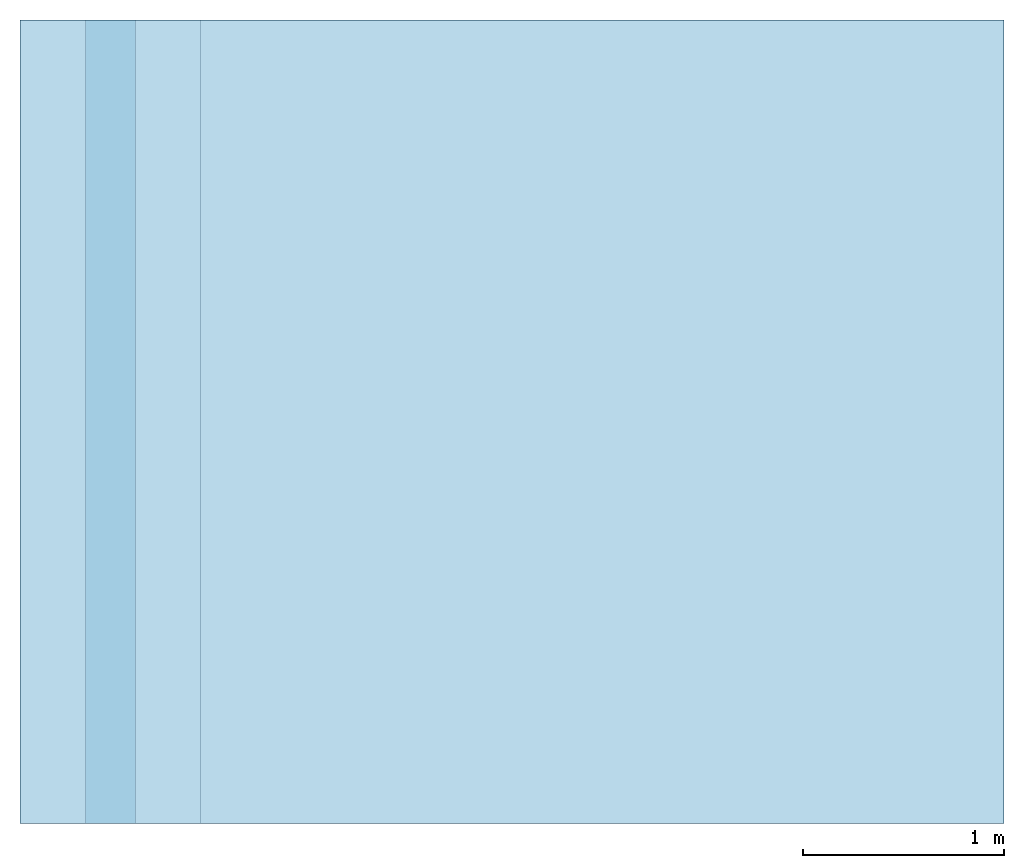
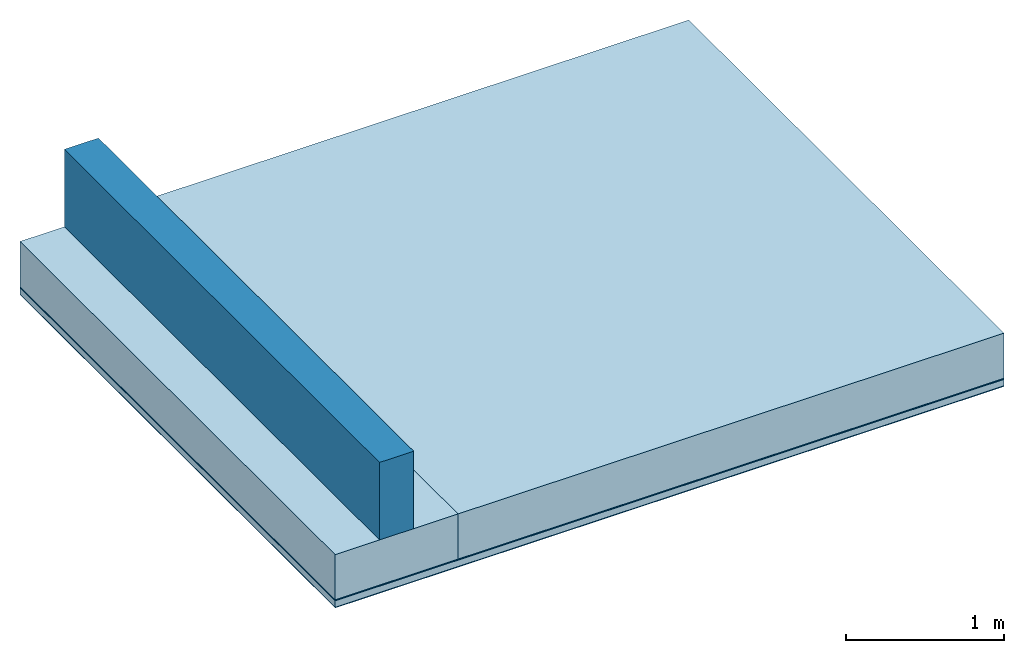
# One storey: 7 slabs, 1 footing, 1 wall.
"""IFC2X3 building model written with IfcOpenShell, lengths in millimetres."""

from ifc_helpers import new_model, entity, si_unit, converted_unit, derived_unit, direction, frame, frame_2d, origin, origin_2d_with_axis, place, context, subcontext, project, spatial, rectangle, extrude, material, layer, layer_set, layer_usage, type_object, element, save


model = new_model("IFC2X3")

# Units and contexts
model_context = context("Model", 3, precision=0.01, world=origin(), true_north=direction((6.12303176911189e-17, 1.0)))
body_context = subcontext(model_context, "Body", "Model", "MODEL_VIEW")
ifc_project = project(units=[si_unit("LENGTHUNIT", "METRE", prefix="MILLI"), si_unit("AREAUNIT", "SQUARE_METRE"), si_unit("VOLUMEUNIT", "CUBIC_METRE"), converted_unit("PLANEANGLEUNIT", "DEGREE", entity("IfcRatioMeasure", 0.0174532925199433), si_unit("PLANEANGLEUNIT", "RADIAN"), dimensions=[0, 0, 0, 0, 0, 0, 0]), si_unit("MASSUNIT", "GRAM", prefix="KILO"), derived_unit("MASSDENSITYUNIT", [(si_unit("MASSUNIT", "GRAM", prefix="KILO"), 1), (si_unit("LENGTHUNIT", "METRE"), -3)]), si_unit("TIMEUNIT", "SECOND"), si_unit("FREQUENCYUNIT", "HERTZ"), si_unit("THERMODYNAMICTEMPERATUREUNIT", "DEGREE_CELSIUS"), derived_unit("THERMALTRANSMITTANCEUNIT", [(si_unit("MASSUNIT", "GRAM", prefix="KILO"), 1), (si_unit("THERMODYNAMICTEMPERATUREUNIT", "KELVIN"), -1), (si_unit("TIMEUNIT", "SECOND"), -3)]), derived_unit("VOLUMETRICFLOWRATEUNIT", [(si_unit("LENGTHUNIT", "METRE"), 3), (si_unit("TIMEUNIT", "SECOND"), -1)]), si_unit("ELECTRICCURRENTUNIT", "AMPERE"), si_unit("ELECTRICVOLTAGEUNIT", "VOLT"), si_unit("POWERUNIT", "WATT"), si_unit("FORCEUNIT", "NEWTON", prefix="KILO"), si_unit("ILLUMINANCEUNIT", "LUX"), si_unit("LUMINOUSFLUXUNIT", "LUMEN"), si_unit("LUMINOUSINTENSITYUNIT", "CANDELA"), derived_unit("USERDEFINED", [(si_unit("MASSUNIT", "GRAM", prefix="KILO"), -1), (si_unit("LENGTHUNIT", "METRE"), -2), (si_unit("TIMEUNIT", "SECOND"), 3), (si_unit("LUMINOUSFLUXUNIT", "LUMEN"), 1)]), derived_unit("LINEARVELOCITYUNIT", [(si_unit("LENGTHUNIT", "METRE"), 1), (si_unit("TIMEUNIT", "SECOND"), -1)]), si_unit("PRESSUREUNIT", "PASCAL"), derived_unit("USERDEFINED", [(si_unit("LENGTHUNIT", "METRE"), -2), (si_unit("MASSUNIT", "GRAM", prefix="KILO"), 1), (si_unit("TIMEUNIT", "SECOND"), -2)])], contexts=[model_context])

# Site, building, storey
site_placement = place(None, origin())
site = spatial("IfcSite", under=ifc_project, at=site_placement, Name="Default", CompositionType="ELEMENT")
building_placement = place(site_placement, origin())
building = spatial("IfcBuilding", under=site, at=building_placement, CompositionType="ELEMENT")
storey_placement = place(building_placement, origin())
storey = spatial("IfcBuildingStorey", under=building, at=storey_placement, Name="Nivel 1", CompositionType="ELEMENT", Elevation=0.0)

# Footing
ifc_material_1 = material(Name="Placa")
footing_placement = place(storey_placement, origin())
element("IfcFooting", 1, at=footing_placement, inside=storey, material=ifc_material_1, Name="Cimentación de muro:ZapataCorrida", ObjectType="Cimentación de muro:ZapataCorrida", PredefinedType="STRIP_FOOTING", context=body_context, shape_type="SweptSolid", body=[
    extrude(rectangle(XDim=4000.0, YDim=900.0, at=frame_2d((1.13686837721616e-13, 5.40012479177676e-13), x_axis=(1.0, 0.0))), frame((-6604.95271651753, -1086.84289171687, -350.0), z_axis=(0.0, 0.0, 1.0), x_axis=(0.0, -1.0, 0.0)), (0.0, 0.0, 1.0), 350.0),
])

# Slabs
ifc_layer_1 = layer(ifc_material_1, 350.0)
ifc_layer_set_1 = layer_set([ifc_layer_1], Name="Suelo:Placa")
ifc_layer_usage_1 = layer_usage(ifc_layer_set_1, "AXIS3", "POSITIVE", 0.0)
slab_1_placement = place(storey_placement, origin())
element("IfcSlab", 2, at=slab_1_placement, inside=storey, material=ifc_layer_usage_1, Name="Suelo:Placa", ObjectType="Suelo:Placa", PredefinedType="FLOOR", context=body_context, shape_type="SweptSolid", body=[
    extrude(rectangle(XDim=4000.00000000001, YDim=4000.0, at=origin_2d_with_axis()), frame((-4154.95271651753, -1086.84289171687, 0.0), z_axis=(0.0, 0.0, -1.0), x_axis=(0.0, 1.0, 0.0)), (0.0, 0.0, 1.0), 350.0),
])
ifc_material_2 = material(Name="IM_Polipropileno_Geotextil_GeofimPP12515")
slab_2_placement = place(storey_placement, origin())
element("IfcSlab", 3, at=slab_2_placement, inside=storey, material=ifc_material_2, Name="Pieza", context=body_context, shape_type="SweptSolid", body=[
    extrude(rectangle(XDim=4900.0, YDim=4000.0, at=origin_2d_with_axis()), frame((-4604.95271651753, -1086.84289171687, -352.0), z_axis=(0.0, 0.0, 1.0), x_axis=(-1.0, 0.0, 0.0)), (0.0, 0.0, 1.0), 2.00000000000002),
])
ifc_material_3 = material(Name="IM_LaminaAsfaltica_Lamina_PolitaberPolPy30 (LBM 30-FP)")
slab_3_placement = place(storey_placement, origin())
element("IfcSlab", 4, at=slab_3_placement, inside=storey, material=ifc_material_3, Name="Pieza", context=body_context, shape_type="SweptSolid", body=[
    extrude(rectangle(XDim=4900.0, YDim=4000.0, at=origin_2d_with_axis()), frame((-4604.95271651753, -1086.84289171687, -354.0), z_axis=(0.0, 0.0, 1.0), x_axis=(-1.0, 0.0, 0.0)), (0.0, 0.0, 1.0), 1.99999999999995),
])
slab_4_placement = place(storey_placement, origin())
element("IfcSlab", 5, at=slab_4_placement, inside=storey, material=ifc_material_3, Name="Pieza", context=body_context, shape_type="SweptSolid", body=[
    extrude(rectangle(XDim=4900.0, YDim=4000.0, at=frame_2d((4.54747350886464e-13, 0.0), x_axis=(1.0, 0.0))), frame((-4604.95271651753, -1086.84289171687, -356.0), z_axis=(0.0, 0.0, 1.0), x_axis=(-1.0, 0.0, 0.0)), (0.0, 0.0, 1.0), 2.00000000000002),
])
ifc_material_4 = material(Name="IM_EmulsionBituminosa_Bote_Supermul")
slab_5_placement = place(storey_placement, origin())
element("IfcSlab", 6, at=slab_5_placement, inside=storey, material=ifc_material_4, Name="Pieza", context=body_context, shape_type="SweptSolid", body=[
    extrude(rectangle(XDim=4900.0, YDim=4000.0, at=origin_2d_with_axis()), frame((-4604.95271651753, -1086.84289171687, -358.0), z_axis=(0.0, 0.0, 1.0), x_axis=(-1.0, 0.0, 0.0)), (0.0, 0.0, 1.0), 2.00000000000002),
])
ifc_material_5 = material(Name="Hormigón de limpieza")
slab_6_placement = place(storey_placement, origin())
element("IfcSlab", 7, at=slab_6_placement, inside=storey, material=ifc_material_5, Name="Pieza", context=body_context, shape_type="SweptSolid", body=[
    extrude(rectangle(XDim=4900.0, YDim=4000.0, at=origin_2d_with_axis()), frame((-4604.95271651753, -1086.84289171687, -408.0), z_axis=(0.0, 0.0, 1.0), x_axis=(-1.0, 0.0, 0.0)), (0.0, 0.0, 1.0), 50.0),
])
ifc_material_6 = material(Name="IM_PolietilenoAltaDensidadyGeotextil_Lamina_ChovaDrenDD")
slab_7_placement = place(storey_placement, origin())
element("IfcSlab", 8, at=slab_7_placement, inside=storey, material=ifc_material_6, Name="Pieza", context=body_context, shape_type="SweptSolid", body=[
    extrude(rectangle(XDim=4900.0, YDim=4000.0, at=origin_2d_with_axis()), frame((-4604.95271651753, -1086.84289171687, -414.0), z_axis=(0.0, 0.0, 1.0), x_axis=(-1.0, 0.0, 0.0)), (0.0, 0.0, 1.0), 5.99999999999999),
])

# Wall
ifc_material_7 = material(Name="Soporte resistente")
ifc_layer_2 = layer(ifc_material_7, 250.0)
ifc_layer_set_2 = layer_set([ifc_layer_2], Name="Muro básico:Muro")
ifc_layer_usage_2 = layer_usage(ifc_layer_set_2, "AXIS2", "POSITIVE", -125.0)
wall_type = type_object("IfcWallType", Name="Muro básico:Muro", PredefinedType="STANDARD", material=ifc_layer_set_2)
wall_placement = place(storey_placement, frame((-6604.95271651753, 913.157108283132, 0.0), z_axis=(0.0, 0.0, 1.0), x_axis=(0.0, -1.0, 0.0)))
element("IfcWallStandardCase", 9, at=wall_placement, inside=storey, type_object=wall_type, material=ifc_layer_usage_2, Name="Muro básico:Muro", ObjectType="Muro básico:Muro", context=body_context, shape_type="SweptSolid", body=[
    extrude(rectangle(XDim=4000.0, YDim=249.999999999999, at=frame_2d((2000.0, 0.0), x_axis=(-1.0, 0.0))), origin(), (0.0, 0.0, 1.0), 600.0),
])

save(model, "model.ifc")
